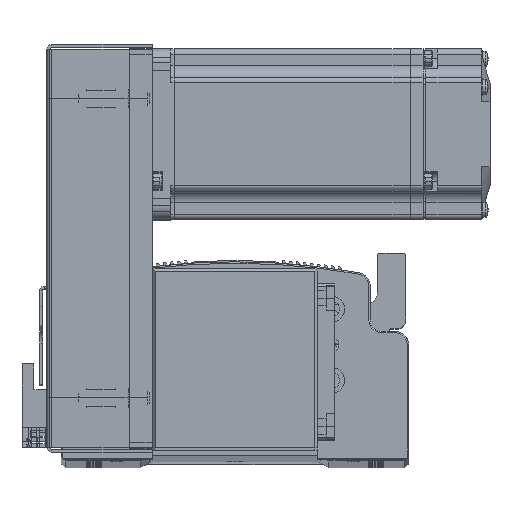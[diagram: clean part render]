
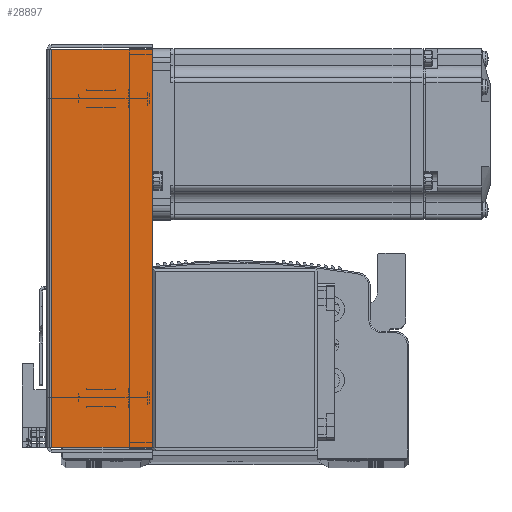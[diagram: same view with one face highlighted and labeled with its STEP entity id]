
A CAD part, top view. The second image highlights one B-rep face of the part: STEP entity #28897.
In plain terms, the highlighted planar face has unit normal (0, 0, 1) as drawn and (0, 0, -1) by its records, which use the part's own axes.
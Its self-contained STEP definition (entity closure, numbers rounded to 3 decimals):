
#5465 = CARTESIAN_POINT ( 'NONE',  ( 71.5, 0.737, -33.5 ) ) ;
#5467 = DIRECTION ( 'NONE',  ( 1., 0., 0. ) ) ;
#5500 = CARTESIAN_POINT ( 'NONE',  ( -69.793, 0., -33.5 ) ) ;
#5534 = CARTESIAN_POINT ( 'NONE',  ( 69.793, 36., -33.5 ) ) ;
#5541 = CARTESIAN_POINT ( 'NONE',  ( -69.793, 36., -33.5 ) ) ;
#5599 = DIRECTION ( 'NONE',  ( 0., 1., 0. ) ) ;
#5703 = CARTESIAN_POINT ( 'NONE',  ( 69.793, 0.737, -33.5 ) ) ;
#5955 = CARTESIAN_POINT ( 'NONE',  ( 69.793, 0., -33.5 ) ) ;
#5973 = DIRECTION ( 'NONE',  ( 0., 1., 0. ) ) ;
#6029 = CARTESIAN_POINT ( 'NONE',  ( 0., 36., -33.5 ) ) ;
#6107 = CARTESIAN_POINT ( 'NONE',  ( -69.793, 0.737, -33.5 ) ) ;
#6144 = DIRECTION ( 'NONE',  ( 1., 0., 0. ) ) ;
#12284 = VECTOR ( 'NONE', #5467, 1000. ) ;
#12379 = LINE ( 'NONE', #5465, #12284 ) ;
#12414 = LINE ( 'NONE', #5500, #12416 ) ;
#12416 = VECTOR ( 'NONE', #5599, 1000. ) ;
#12563 = LINE ( 'NONE', #5955, #12610 ) ;
#12565 = LINE ( 'NONE', #6029, #12566 ) ;
#12566 = VECTOR ( 'NONE', #6144, 1000. ) ;
#12610 = VECTOR ( 'NONE', #5973, 1000. ) ;
#23798 = AXIS2_PLACEMENT_3D ( 'NONE', #57737, #57772, #57745 ) ;
#28897 = ADVANCED_FACE ( 'NONE', ( #72463 ), #57783, .F. ) ;
#49029 = EDGE_CURVE ( 'NONE', #49225, #49079, #12379, .T. ) ;
#49036 = VERTEX_POINT ( 'NONE', #5534 ) ;
#49039 = VERTEX_POINT ( 'NONE', #5541 ) ;
#49042 = EDGE_CURVE ( 'NONE', #49225, #49039, #12414, .T. ) ;
#49079 = VERTEX_POINT ( 'NONE', #5703 ) ;
#49160 = EDGE_CURVE ( 'NONE', #49079, #49036, #12563, .T. ) ;
#49200 = EDGE_CURVE ( 'NONE', #49039, #49036, #12565, .T. ) ;
#49225 = VERTEX_POINT ( 'NONE', #6107 ) ;
#57737 = CARTESIAN_POINT ( 'NONE',  ( 0., 0., -33.5 ) ) ;
#57745 = DIRECTION ( 'NONE',  ( 0., -1., 0. ) ) ;
#57772 = DIRECTION ( 'NONE',  ( 0., 0., 1. ) ) ;
#57783 = PLANE ( 'NONE',  #23798 ) ;
#72463 = FACE_OUTER_BOUND ( 'NONE', #85367, .T. ) ;
#72768 = ORIENTED_EDGE ( 'NONE', *, *, #49029, .F. ) ;
#72772 = ORIENTED_EDGE ( 'NONE', *, *, #49042, .T. ) ;
#72952 = ORIENTED_EDGE ( 'NONE', *, *, #49160, .F. ) ;
#72964 = ORIENTED_EDGE ( 'NONE', *, *, #49200, .T. ) ;
#85367 = EDGE_LOOP ( 'NONE', ( #72768, #72772, #72964, #72952 ) ) ;
